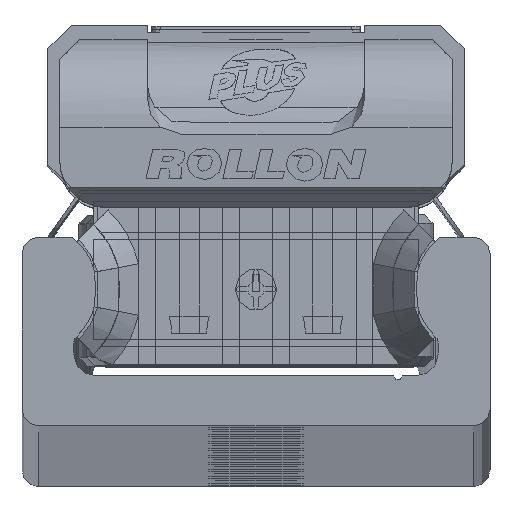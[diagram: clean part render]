
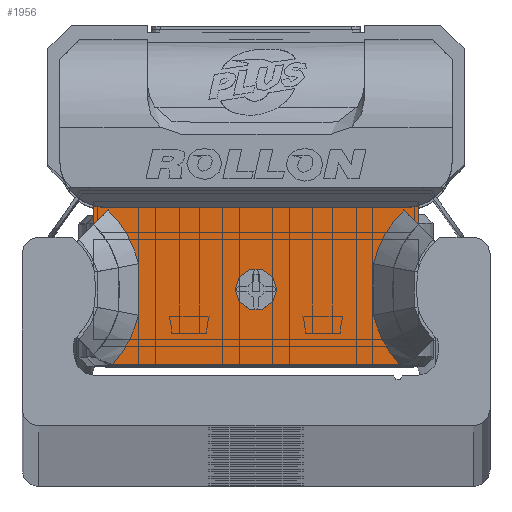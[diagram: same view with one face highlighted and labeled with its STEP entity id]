
A CAD part, top view. The second image highlights one B-rep face of the part: STEP entity #1956.
In plain terms, the highlighted planar face has unit normal (0, 0, 1) as drawn and (0, 0, -1) by its records, which use the part's own axes.
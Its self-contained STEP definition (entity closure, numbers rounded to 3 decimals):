
#1956 = ADVANCED_FACE( '', ( #4174, #4175 ), #4176, .F. );
#4174 = FACE_BOUND( '', #6587, .T. );
#4175 = FACE_OUTER_BOUND( '', #6588, .T. );
#4176 = PLANE( '', #6589 );
#6587 = EDGE_LOOP( '', ( #11872 ) );
#6588 = EDGE_LOOP( '', ( #11873, #11874, #11875, #11876, #11877, #11878, #11879, #11880, #11881, #11882, #11883, #11884, #11885, #11886 ) );
#6589 = AXIS2_PLACEMENT_3D( '', #11887, #11888, #11889 );
#11872 = ORIENTED_EDGE( '', *, *, #14913, .T. );
#11873 = ORIENTED_EDGE( '', *, *, #13001, .F. );
#11874 = ORIENTED_EDGE( '', *, *, #14412, .T. );
#11875 = ORIENTED_EDGE( '', *, *, #14056, .T. );
#11876 = ORIENTED_EDGE( '', *, *, #13166, .T. );
#11877 = ORIENTED_EDGE( '', *, *, #14307, .T. );
#11878 = ORIENTED_EDGE( '', *, *, #13526, .T. );
#11879 = ORIENTED_EDGE( '', *, *, #14732, .T. );
#11880 = ORIENTED_EDGE( '', *, *, #13810, .T. );
#11881 = ORIENTED_EDGE( '', *, *, #14788, .T. );
#11882 = ORIENTED_EDGE( '', *, *, #13024, .T. );
#11883 = ORIENTED_EDGE( '', *, *, #14454, .T. );
#11884 = ORIENTED_EDGE( '', *, *, #14914, .T. );
#11885 = ORIENTED_EDGE( '', *, *, #13917, .T. );
#11886 = ORIENTED_EDGE( '', *, *, #13454, .T. );
#11887 = CARTESIAN_POINT( '', ( 9.7, 4.89, -10.6 ) );
#11888 = DIRECTION( '', ( 0., 0., 1. ) );
#11889 = DIRECTION( '', ( 1., 0., 0. ) );
#13001 = EDGE_CURVE( '', #15409, #15411, #15412, .T. );
#13024 = EDGE_CURVE( '', #15431, #15449, #15451, .T. );
#13166 = EDGE_CURVE( '', #15699, #15709, #15711, .T. );
#13454 = EDGE_CURVE( '', #16202, #15411, #16203, .T. );
#13526 = EDGE_CURVE( '', #16315, #16313, #16316, .T. );
#13810 = EDGE_CURVE( '', #16764, #16762, #16765, .T. );
#13917 = EDGE_CURVE( '', #16924, #16202, #16925, .T. );
#14056 = EDGE_CURVE( '', #17138, #15699, #17141, .T. );
#14307 = EDGE_CURVE( '', #15709, #16315, #17520, .T. );
#14412 = EDGE_CURVE( '', #15409, #17138, #17666, .T. );
#14454 = EDGE_CURVE( '', #15449, #17716, #17718, .T. );
#14732 = EDGE_CURVE( '', #16313, #16764, #18065, .T. );
#14788 = EDGE_CURVE( '', #16762, #15431, #18128, .T. );
#14913 = EDGE_CURVE( '', #18269, #18269, #18270, .T. );
#14914 = EDGE_CURVE( '', #17716, #16924, #18271, .T. );
#15409 = VERTEX_POINT( '', #18899 );
#15411 = VERTEX_POINT( '', #18902 );
#15412 = LINE( '', #18903, #18904 );
#15431 = VERTEX_POINT( '', #18928 );
#15449 = VERTEX_POINT( '', #18951 );
#15451 = LINE( '', #18954, #18955 );
#15699 = VERTEX_POINT( '', #19329 );
#15709 = VERTEX_POINT( '', #19341 );
#15711 = CIRCLE( '', #19344, 2.8 );
#16202 = VERTEX_POINT( '', #20052 );
#16203 = LINE( '', #20053, #20054 );
#16313 = VERTEX_POINT( '', #20195 );
#16315 = VERTEX_POINT( '', #20198 );
#16316 = LINE( '', #20199, #20200 );
#16762 = VERTEX_POINT( '', #20816 );
#16764 = VERTEX_POINT( '', #20819 );
#16765 = B_SPLINE_CURVE_WITH_KNOTS( '', 2, ( #20820, #20821, #20822 ), .UNSPECIFIED., .F., .F., ( 3, 3 ), ( 0., 1. ), .UNSPECIFIED. );
#16924 = VERTEX_POINT( '', #21037 );
#16925 = B_SPLINE_CURVE_WITH_KNOTS( '', 2, ( #21038, #21039, #21040 ), .UNSPECIFIED., .F., .F., ( 3, 3 ), ( 0., 1. ), .UNSPECIFIED. );
#17138 = VERTEX_POINT( '', #21356 );
#17141 = LINE( '', #21361, #21362 );
#17520 = LINE( '', #21889, #21890 );
#17666 = CIRCLE( '', #22086, 2.8 );
#17716 = VERTEX_POINT( '', #22159 );
#17718 = B_SPLINE_CURVE_WITH_KNOTS( '', 2, ( #22162, #22163, #22164 ), .UNSPECIFIED., .F., .F., ( 3, 3 ), ( 0.1, 1. ), .UNSPECIFIED. );
#18065 = B_SPLINE_CURVE_WITH_KNOTS( '', 2, ( #22686, #22687, #22688, #22689, #22690 ), .UNSPECIFIED., .F., .F., ( 3, 2, 3 ), ( 0., 0.5, 1. ), .UNSPECIFIED. );
#18128 = B_SPLINE_CURVE_WITH_KNOTS( '', 2, ( #22797, #22798, #22799 ), .UNSPECIFIED., .F., .F., ( 3, 3 ), ( 0., 1. ), .UNSPECIFIED. );
#18269 = VERTEX_POINT( '', #22994 );
#18270 = CIRCLE( '', #22995, 1.25 );
#18271 = B_SPLINE_CURVE_WITH_KNOTS( '', 2, ( #22996, #22997, #22998 ), .UNSPECIFIED., .F., .F., ( 3, 3 ), ( 0., 1. ), .UNSPECIFIED. );
#18899 = CARTESIAN_POINT( '', ( -9.7, 4.612, -10.6 ) );
#18902 = CARTESIAN_POINT( '', ( -9.7, 3.494, -10.6 ) );
#18903 = CARTESIAN_POINT( '', ( -9.7, 4.89, -10.6 ) );
#18904 = VECTOR( '', #23422, 1000. );
#18928 = CARTESIAN_POINT( '', ( 8.59, -4.893, -10.6 ) );
#18951 = CARTESIAN_POINT( '', ( -8.59, -4.893, -10.6 ) );
#18954 = CARTESIAN_POINT( '', ( 9.7, -4.89, -10.6 ) );
#18955 = VECTOR( '', #23458, 1000. );
#19329 = CARTESIAN_POINT( '', ( 8.95, 4.51, -10.6 ) );
#19341 = CARTESIAN_POINT( '', ( 9.7, 4.612, -10.6 ) );
#19344 = AXIS2_PLACEMENT_3D( '', #23680, #23681, #23682 );
#20052 = CARTESIAN_POINT( '', ( -8.853, 4.366, -10.6 ) );
#20053 = CARTESIAN_POINT( '', ( -8.853, 4.366, -10.6 ) );
#20054 = VECTOR( '', #24166, 1000. );
#20195 = CARTESIAN_POINT( '', ( 8.853, 4.366, -10.6 ) );
#20198 = CARTESIAN_POINT( '', ( 9.7, 3.497, -10.6 ) );
#20199 = CARTESIAN_POINT( '', ( 9.7, 3.501, -10.6 ) );
#20200 = VECTOR( '', #24257, 1000. );
#20816 = CARTESIAN_POINT( '', ( 7.031, -1.944, -10.6 ) );
#20819 = CARTESIAN_POINT( '', ( 7.031, 1.144, -10.6 ) );
#20820 = CARTESIAN_POINT( '', ( 7.031, 1.144, -10.6 ) );
#20821 = CARTESIAN_POINT( '', ( 6.929, -0.4, -10.6 ) );
#20822 = CARTESIAN_POINT( '', ( 7.031, -1.944, -10.6 ) );
#21037 = CARTESIAN_POINT( '', ( -7.031, 1.144, -10.6 ) );
#21038 = CARTESIAN_POINT( '', ( -7.031, 1.144, -10.6 ) );
#21039 = CARTESIAN_POINT( '', ( -7.477, 3.018, -10.6 ) );
#21040 = CARTESIAN_POINT( '', ( -8.853, 4.366, -10.6 ) );
#21356 = CARTESIAN_POINT( '', ( -8.95, 4.51, -10.6 ) );
#21361 = CARTESIAN_POINT( '', ( 9.7, 4.51, -10.6 ) );
#21362 = VECTOR( '', #24959, 1000. );
#21889 = CARTESIAN_POINT( '', ( 9.7, 4.89, -10.6 ) );
#21890 = VECTOR( '', #25299, 1000. );
#22086 = AXIS2_PLACEMENT_3D( '', #25428, #25429, #25430 );
#22159 = CARTESIAN_POINT( '', ( -7.031, -1.944, -10.6 ) );
#22162 = CARTESIAN_POINT( '', ( -8.587, -4.89, -10.6 ) );
#22163 = CARTESIAN_POINT( '', ( -7.432, -3.63, -10.6 ) );
#22164 = CARTESIAN_POINT( '', ( -7.031, -1.944, -10.6 ) );
#22686 = CARTESIAN_POINT( '', ( 8.853, 4.366, -10.6 ) );
#22687 = CARTESIAN_POINT( '', ( 8.182, 3.708, -10.6 ) );
#22688 = CARTESIAN_POINT( '', ( 7.715, 2.883, -10.6 ) );
#22689 = CARTESIAN_POINT( '', ( 7.249, 2.058, -10.6 ) );
#22690 = CARTESIAN_POINT( '', ( 7.031, 1.144, -10.6 ) );
#22797 = CARTESIAN_POINT( '', ( 7.031, -1.944, -10.6 ) );
#22798 = CARTESIAN_POINT( '', ( 7.429, -3.615, -10.6 ) );
#22799 = CARTESIAN_POINT( '', ( 8.588, -4.89, -10.6 ) );
#22994 = CARTESIAN_POINT( '', ( 1.25, -0.39, -10.6 ) );
#22995 = AXIS2_PLACEMENT_3D( '', #25892, #25893, #25894 );
#22996 = CARTESIAN_POINT( '', ( -7.031, -1.944, -10.6 ) );
#22997 = CARTESIAN_POINT( '', ( -6.929, -0.4, -10.6 ) );
#22998 = CARTESIAN_POINT( '', ( -7.031, 1.144, -10.6 ) );
#23422 = DIRECTION( '', ( 0., -1., 0. ) );
#23458 = DIRECTION( '', ( -1., 0., 0. ) );
#23680 = CARTESIAN_POINT( '', ( 8.95, 7.31, -10.6 ) );
#23681 = DIRECTION( '', ( 0., 0., 1. ) );
#23682 = DIRECTION( '', ( 1., 0., 0. ) );
#24166 = DIRECTION( '', ( -0.7, -0.714, 0. ) );
#24257 = DIRECTION( '', ( -0.7, 0.714, 0. ) );
#24959 = DIRECTION( '', ( 1., 0., 0. ) );
#25299 = DIRECTION( '', ( 0., -1., 0. ) );
#25428 = CARTESIAN_POINT( '', ( -8.95, 7.31, -10.6 ) );
#25429 = DIRECTION( '', ( 0., 0., 1. ) );
#25430 = DIRECTION( '', ( 1., 0., 0. ) );
#25892 = CARTESIAN_POINT( '', ( 0., -0.39, -10.6 ) );
#25893 = DIRECTION( '', ( 0., 0., 1. ) );
#25894 = DIRECTION( '', ( 1., 0., 0. ) );
